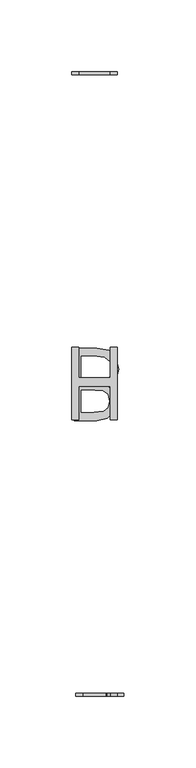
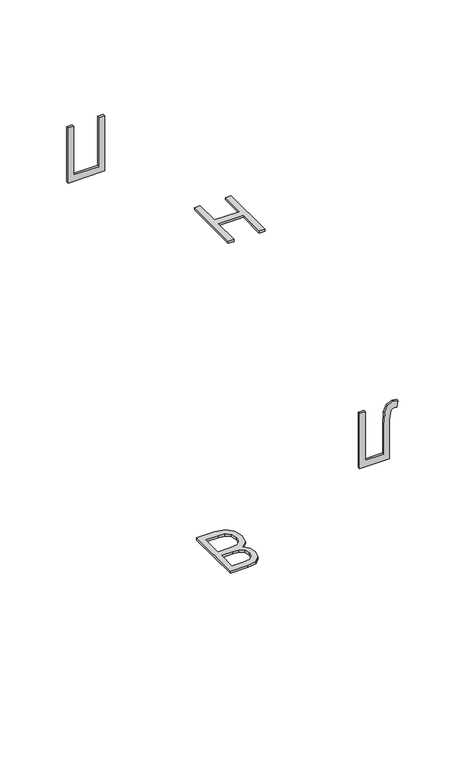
"""IFC4 building model written with IfcOpenShell, lengths in millimetres: proxy geometry, mS_GM_ОКЛ_Короб : ДваФ_EI_150_70мм_EI_45_10мм."""

from ifc_helpers import new_model, si_unit, frame, origin, place, context, project, spatial, polyline, outline, extrude, source, transform, mapped, element, save


def generic_models_5b07f81f(model_context):
    return source(origin(), model_context, "Body", "SweptSolid", [
        extrude(outline(polyline([(-15.0265659, 25.0), (0.5457283, 25.0), (9.0425914, 23.4135805), (13.9858747, 18.3180009), (15.8388127, 10.1764958), (13.9922203, 2.3015092), (8.9347148, -2.2102679), (12.8309612, -6.5951316), (14.2143191, -12.7440937), (12.4629119, -19.4514755), (7.9574804, -23.9251786), (0.4822715, -25.3593019), (-15.0265659, -25.3593019), (-15.0265659, 25.0)]), holes=[polyline([(-10.1530851, -4.240885), (-10.1530851, -19.6735742), (-1.3579751, -19.6735742), (5.2732586, -18.9755496), (8.2303446, -16.4499697), (9.3408383, -11.8683901), (8.1161224, -7.1852796), (4.6323451, -4.7231565), (-0.6599505, -4.240885), (-10.1530851, -4.240885)]), polyline([(-10.1530851, 19.3142724), (-10.1530851, 1.4448427), (-0.1015309, 1.4448427), (6.428172, 2.384003), (9.7342703, 5.3601261), (10.9653319, 10.3414835), (9.6835049, 15.6464704), (5.9395548, 18.6797046), (0.6599505, 19.3142724), (-10.1530851, 19.3142724)])]), frame((0.0, 0.0, -237.0), z_axis=(0.0, 0.0, 1.0), x_axis=(1.0, 0.0, 0.0)), (0.0, 0.0, 1.0), 2.0),
        extrude(outline(polyline([(-25.3593019, 12.1837021), (10.3414835, 12.1837021), (18.4639515, 13.1926649), (20.1265192, 16.1053312), (19.3142724, 18.5166889), (25.0, 19.4939233), (25.8122468, 15.1915535), (23.7245187, 10.4259492), (17.8928405, 7.9003693), (6.3817803, 7.3102212), (-19.6735742, 7.3102212), (-19.6735742, -8.9347148), (25.0, -8.9347148), (25.0, -13.8081957), (-25.3593019, -13.8081957), (-25.3593019, 12.1837021)])), frame((0.0, -217.0, 0.0), z_axis=(0.0, 1.0, 0.0), x_axis=(0.0, 0.0, 1.0)), (0.0, 0.0, 1.0), 2.0),
        extrude(outline(polyline([(25.0, -11.7775787), (25.0, -16.6510595), (-25.3593019, -16.6510595), (-25.3593019, 15.0265659), (25.0, 15.0265659), (25.0, 10.1530851), (-19.6735742, 10.1530851), (-19.6735742, -11.7775787), (25.0, -11.7775787)])), frame((0.0, 215.0, 0.0), z_axis=(0.0, 1.0, 0.0), x_axis=(0.0, 0.0, 1.0)), (0.0, 0.0, 1.0), 2.0),
        extrude(outline(polyline([(-16.6510595, -25.0), (-16.6510595, 25.3593019), (-11.7775787, 25.3593019), (-11.7775787, 4.240885), (10.1530851, 4.240885), (10.1530851, 25.3593019), (15.0265659, 25.3593019), (15.0265659, -25.0), (10.1530851, -25.0), (10.1530851, -1.4448427), (-11.7775787, -1.4448427), (-11.7775787, -25.0), (-16.6510595, -25.0)])), frame((0.0, 0.0, 65.0), z_axis=(0.0, 0.0, 1.0), x_axis=(1.0, 0.0, 0.0)), (0.0, 0.0, 1.0), 2.0),
    ])


if __name__ == "__main__":
    model = new_model("IFC4")
    model_context = context("Model", 3, world=origin())
    ifc_project = project(units=[si_unit("LENGTHUNIT", "METRE", prefix="MILLI")], contexts=[model_context])
    site = spatial("IfcSite", under=ifc_project)
    building = spatial("IfcBuilding", under=site)
    placement = place(None, origin())
    generic_models_shape = generic_models_5b07f81f(model_context)
    element("IfcBuildingElementProxy", 1, Name="mS_GM_ОКЛ_Короб : ДваФ_EI_150_70мм_EI_45_10мм", ObjectType="mS_GM_ОКЛ_Короб : ДваФ_EI_150_70мм_EI_45_10мм", at=placement, inside=building, context=model_context, shape_type="MappedRepresentation", body=[
        mapped(generic_models_shape, transform((0.0, 0.0, 0.0), x_axis=(1.0, 0.0, 0.0), y_axis=(0.0, 1.0, 0.0), z_axis=(0.0, 0.0, 1.0))),
    ])
    save(model, "model.ifc")
